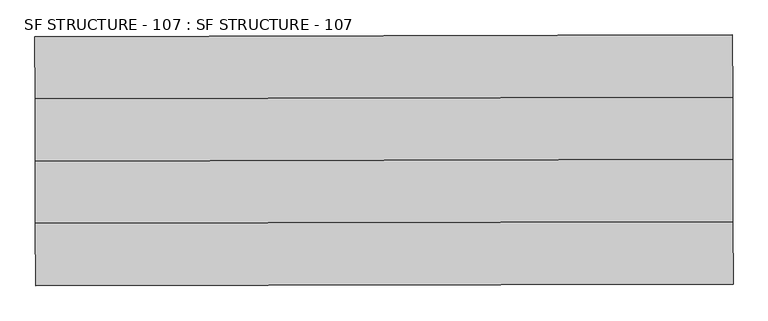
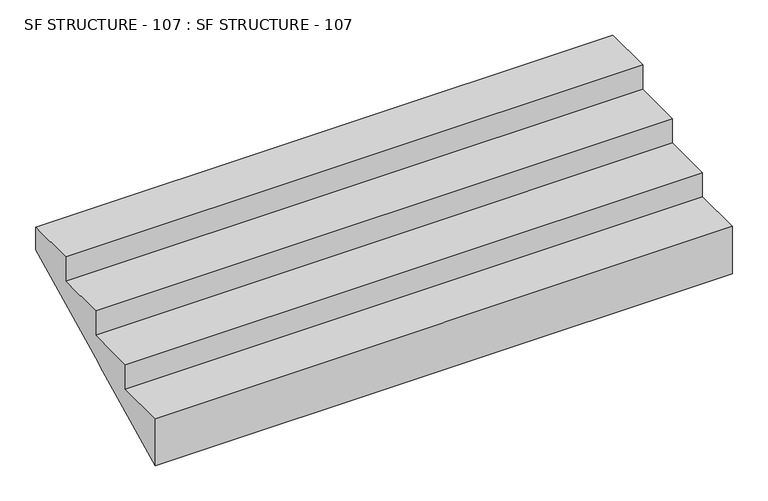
"""IFC4 building model written with IfcOpenShell, lengths in millimetres: stair geometry, SF STRUCTURE - 107 : SF STRUCTURE - 107."""

from ifc_helpers import new_model, si_unit, frame, origin, place, context, project, spatial, polyline, outline, extrude, source, transform, mapped, element, save


def sf_structure_107_sf_structure_107_e833613f(model_context):
    return source(origin(), model_context, "Body", "SweptSolid", [
        extrude(outline(polyline([(0.0, 0.0), (85.1941899, 0.0), (-46.4611621, -263.3107039), (-319.0825698, -127.0), (-387.2379218, -263.3107039), (-659.8593295, -127.0), (-728.0146815, -263.3107039), (-1000.6360891, -127.0), (-1068.7914411, -263.3107039), (-1341.4128488, -127.0), (-1277.9128487, 0.0), (-1192.7186588, 0.0), (-1107.5244689, 0.0), (-1022.330279, 0.0), (-937.1360891, 0.0), (-851.9418991, 0.0), (-766.7477092, 0.0), (-681.5535194, 0.0), (-596.3593295, 0.0), (-511.1651395, 0.0), (-425.9709496, 0.0), (-340.7767597, 0.0), (-255.5825698, 0.0), (-170.3883798, 0.0), (-85.1941899, 0.0), (0.0, 0.0)])), frame((13178.4921176, 5750.0261501, -103.8903166), z_axis=(0.9999971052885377, 0.0024061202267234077, 0.0), x_axis=(0.00215209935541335, -0.8944246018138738, -0.4472135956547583)), (0.0, 0.0, 1.0), 3413.9274812),
    ])


if __name__ == "__main__":
    model = new_model("IFC4")
    model_context = context("Model", 3, world=origin())
    ifc_project = project(units=[si_unit("LENGTHUNIT", "METRE", prefix="MILLI")], contexts=[model_context])
    site = spatial("IfcSite", under=ifc_project)
    building = spatial("IfcBuilding", under=site)
    placement = place(None, origin())
    sf_structure_107_sf_structure_107_shape = sf_structure_107_sf_structure_107_e833613f(model_context)
    element("IfcStair", 1, ObjectType="SF STRUCTURE - 107 : SF STRUCTURE - 107", at=placement, inside=building, context=model_context, shape_type="MappedRepresentation", body=[
        mapped(sf_structure_107_sf_structure_107_shape, transform((0.0, 0.0, 0.0), x_axis=(1.0, 0.0, 0.0), y_axis=(0.0, 1.0, 0.0), z_axis=(0.0, 0.0, 1.0))),
    ])
    save(model, "model.ifc")
